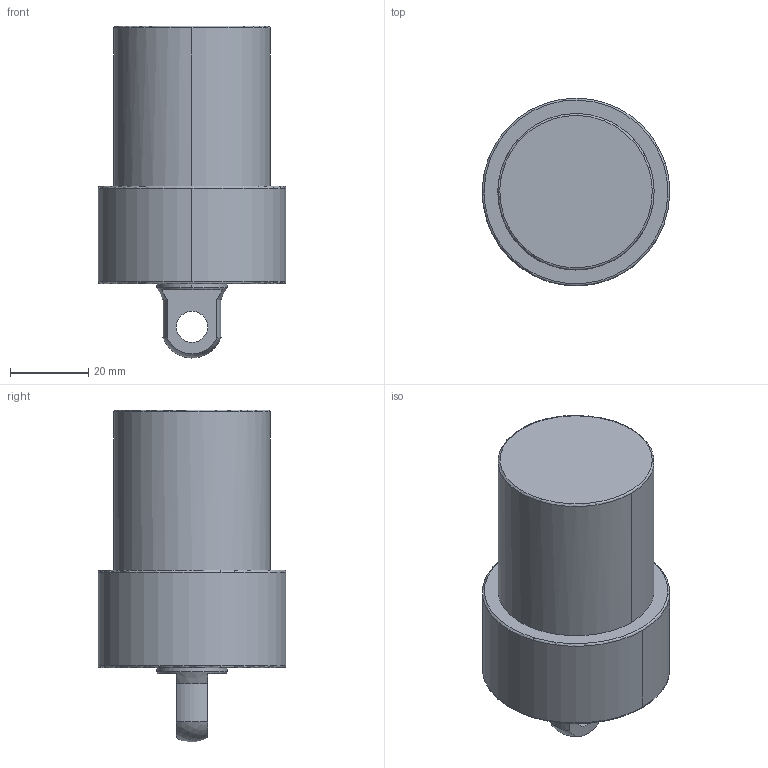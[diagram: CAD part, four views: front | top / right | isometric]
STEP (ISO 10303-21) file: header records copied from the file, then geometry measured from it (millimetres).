
FILE_DESCRIPTION((' '),'2;1');
FILE_NAME( 'TLLU-040GP-030.STEP.stp', '2025-10-24T16:37:15', (' '), ('--- Datakit www.datakit.com---'), ' Datakit CrossCadWare V2024.1 Dec 21 2023', 'Mastercam 2025', ' ');
FILE_SCHEMA(('AUTOMOTIVE_DESIGN { 1 0 10303 214 1 1 1 1 }'));
Length unit declared in the file: millimetre
Products named in the file (1): TLLU-040GP-030
Bounding box: 47.99 x 48 x 84.96 mm (x, y, z)
Volume: 97591.3 mm3; surface area: 14059.2 mm2
Topology: 1 solids, 1 shells, 56 faces, 167 edges, 113 vertices
Faces by surface type: cylinder 22, cone 18, plane 9, torus 6, sphere 1
Entity records: 1952 total; most frequent: DIRECTION 380, CARTESIAN_POINT 341, ORIENTED_EDGE 318, AXIS2_PLACEMENT_3D 168, EDGE_CURVE 159, VERTEX_POINT 113, CIRCLE 111, EDGE_LOOP 66
